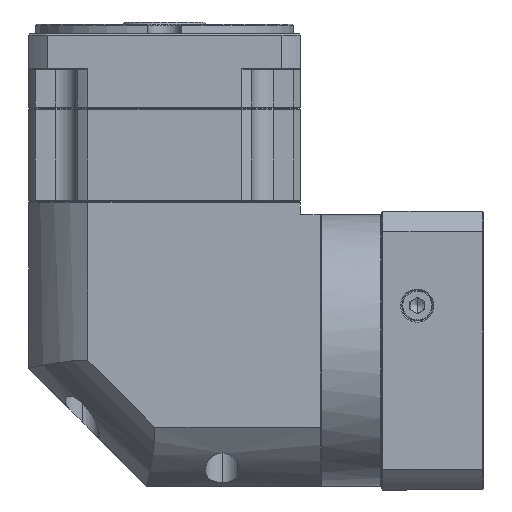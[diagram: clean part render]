
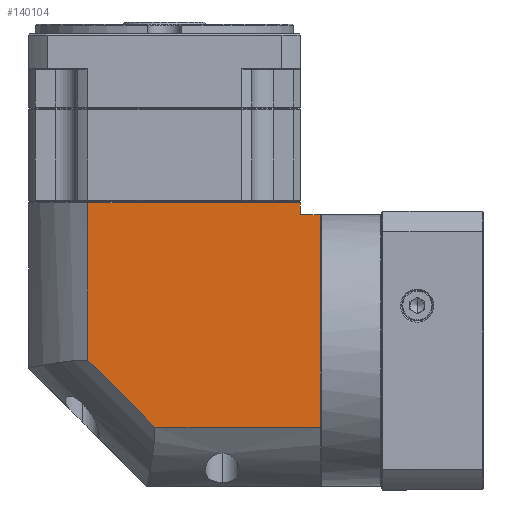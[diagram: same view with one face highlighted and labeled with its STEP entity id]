
A CAD part, left-side view. The second image highlights one B-rep face of the part: STEP entity #140104.
In plain terms, the highlighted planar face has unit normal (-1, 0, 0).
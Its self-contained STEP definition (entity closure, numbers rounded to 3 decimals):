
#5580 = EDGE_CURVE ( 'NONE', #123426, #99222, #95771, .T. ) ;
#6835 = EDGE_CURVE ( 'NONE', #103619, #123426, #127705, .T. ) ;
#8634 = CARTESIAN_POINT ( 'NONE',  ( -284.014, -98.832, 27.382 ) ) ;
#12760 = ORIENTED_EDGE ( 'NONE', *, *, #23063, .F. ) ;
#17052 = CARTESIAN_POINT ( 'NONE',  ( -284.014, -107.232, 22.382 ) ) ;
#21185 = VECTOR ( 'NONE', #24193, 1000. ) ;
#23063 = EDGE_CURVE ( 'NONE', #162724, #103619, #135718, .T. ) ;
#23997 = EDGE_CURVE ( 'NONE', #105208, #75677, #66476, .T. ) ;
#24193 = DIRECTION ( 'NONE',  ( 0., 0., 1. ) ) ;
#26404 = LINE ( 'NONE', #156173, #160342 ) ;
#29677 = EDGE_CURVE ( 'NONE', #71653, #162724, #26404, .T. ) ;
#31280 = ORIENTED_EDGE ( 'NONE', *, *, #6835, .F. ) ;
#34041 = ORIENTED_EDGE ( 'NONE', *, *, #29677, .F. ) ;
#43347 = CARTESIAN_POINT ( 'NONE',  ( -284.014, -8.932, -39.18 ) ) ;
#52355 = CARTESIAN_POINT ( 'NONE',  ( -284.014, 16.168, 33.882 ) ) ;
#57237 = ORIENTED_EDGE ( 'NONE', *, *, #118156, .T. ) ;
#58689 = VECTOR ( 'NONE', #88637, 1000. ) ;
#65383 = DIRECTION ( 'NONE',  ( 0., 1., 0. ) ) ;
#66476 = LINE ( 'NONE', #76111, #100953 ) ;
#71653 = VERTEX_POINT ( 'NONE', #101338 ) ;
#74241 = DIRECTION ( 'NONE',  ( 0., -1., 0. ) ) ;
#75677 = VERTEX_POINT ( 'NONE', #156603 ) ;
#76111 = CARTESIAN_POINT ( 'NONE',  ( -284.014, -98.832, 22.382 ) ) ;
#77903 = PLANE ( 'NONE',  #82840 ) ;
#82545 = CARTESIAN_POINT ( 'NONE',  ( -284.014, -8.932, 27.382 ) ) ;
#82840 = AXIS2_PLACEMENT_3D ( 'NONE', #52355, #143136, #65383 ) ;
#84285 = ORIENTED_EDGE ( 'NONE', *, *, #163859, .F. ) ;
#88637 = DIRECTION ( 'NONE',  ( 0., 0., 1. ) ) ;
#95771 = LINE ( 'NONE', #164935, #160728 ) ;
#97140 = VECTOR ( 'NONE', #129003, 1000. ) ;
#99222 = VERTEX_POINT ( 'NONE', #8634 ) ;
#100953 = VECTOR ( 'NONE', #153777, 1000. ) ;
#101338 = CARTESIAN_POINT ( 'NONE',  ( -284.014, -107.232, -67.518 ) ) ;
#103619 = VERTEX_POINT ( 'NONE', #43347 ) ;
#105208 = VERTEX_POINT ( 'NONE', #17052 ) ;
#116998 = DIRECTION ( 'NONE',  ( 0., 1., 0. ) ) ;
#118156 = EDGE_CURVE ( 'NONE', #75677, #99222, #155110, .T. ) ;
#120327 = CARTESIAN_POINT ( 'NONE',  ( -284.014, -37.27, -67.518 ) ) ;
#123426 = VERTEX_POINT ( 'NONE', #82545 ) ;
#127705 = LINE ( 'NONE', #153274, #58689 ) ;
#129003 = DIRECTION ( 'NONE',  ( 0., 0.707, 0.707 ) ) ;
#132663 = VECTOR ( 'NONE', #150489, 1000. ) ;
#135718 = LINE ( 'NONE', #144359, #97140 ) ;
#136937 = FACE_OUTER_BOUND ( 'NONE', #145046, .T. ) ;
#140104 = ADVANCED_FACE ( 'NONE', ( #136937 ), #77903, .F. ) ;
#141038 = CARTESIAN_POINT ( 'NONE',  ( -284.014, -98.832, -92.618 ) ) ;
#143136 = DIRECTION ( 'NONE',  ( 1., 0., 0. ) ) ;
#144359 = CARTESIAN_POINT ( 'NONE',  ( -284.014, -37.27, -67.518 ) ) ;
#145046 = EDGE_LOOP ( 'NONE', ( #31280, #12760, #34041, #84285, #156203, #57237, #165543 ) ) ;
#149946 = CARTESIAN_POINT ( 'NONE',  ( -284.014, -107.232, 33.882 ) ) ;
#150489 = DIRECTION ( 'NONE',  ( 0., 0., -1. ) ) ;
#153274 = CARTESIAN_POINT ( 'NONE',  ( -284.014, -8.932, 33.882 ) ) ;
#153777 = DIRECTION ( 'NONE',  ( 0., 1., 0. ) ) ;
#155110 = LINE ( 'NONE', #141038, #21185 ) ;
#156173 = CARTESIAN_POINT ( 'NONE',  ( -284.014, 16.168, -67.518 ) ) ;
#156203 = ORIENTED_EDGE ( 'NONE', *, *, #23997, .T. ) ;
#156603 = CARTESIAN_POINT ( 'NONE',  ( -284.014, -98.832, 22.382 ) ) ;
#160342 = VECTOR ( 'NONE', #116998, 1000. ) ;
#160728 = VECTOR ( 'NONE', #74241, 1000. ) ;
#162724 = VERTEX_POINT ( 'NONE', #120327 ) ;
#163859 = EDGE_CURVE ( 'NONE', #105208, #71653, #167219, .T. ) ;
#164935 = CARTESIAN_POINT ( 'NONE',  ( -284.014, 16.168, 27.382 ) ) ;
#165543 = ORIENTED_EDGE ( 'NONE', *, *, #5580, .F. ) ;
#167219 = LINE ( 'NONE', #149946, #132663 ) ;
